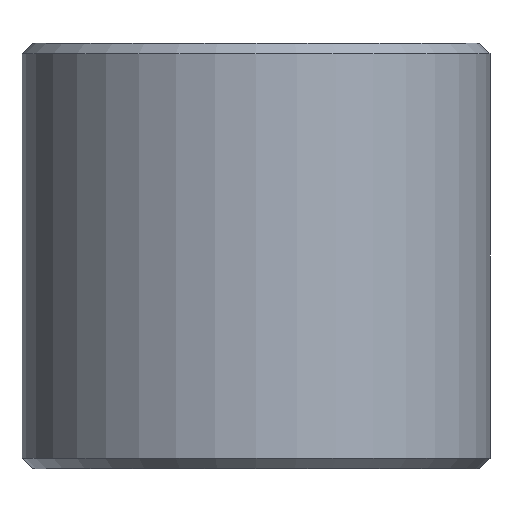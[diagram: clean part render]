
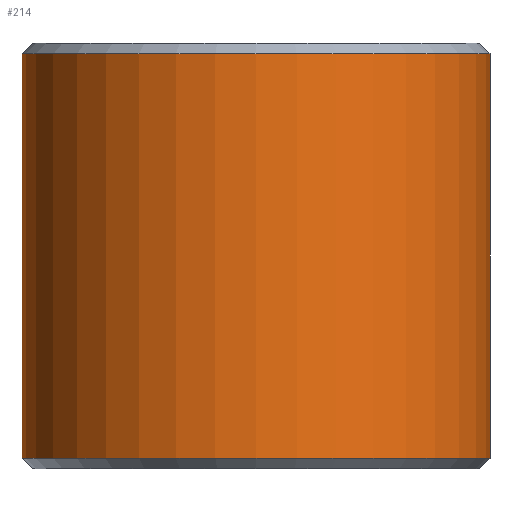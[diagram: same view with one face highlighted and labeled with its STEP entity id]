
A CAD part, front view. The second image highlights one B-rep face of the part: STEP entity #214.
In plain terms, the highlighted cylindrical face has radius 11 mm (diameter 22 mm), a partial arc.
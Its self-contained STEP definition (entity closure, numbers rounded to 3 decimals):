
#9 = LINE ( 'NONE', #278, #441 ) ;
#12 = AXIS2_PLACEMENT_3D ( 'NONE', #204, #348, #306 ) ;
#13 = ORIENTED_EDGE ( 'NONE', *, *, #323, .T. ) ;
#30 = DIRECTION ( 'NONE',  ( 0., 0., -1. ) ) ;
#37 = ORIENTED_EDGE ( 'NONE', *, *, #277, .F. ) ;
#47 = VERTEX_POINT ( 'NONE', #253 ) ;
#66 = DIRECTION ( 'NONE',  ( 0., 0., -1. ) ) ;
#92 = DIRECTION ( 'NONE',  ( 0., 0., -1. ) ) ;
#121 = CIRCLE ( 'NONE', #12, 11. ) ;
#123 = ORIENTED_EDGE ( 'NONE', *, *, #266, .T. ) ;
#138 = CARTESIAN_POINT ( 'NONE',  ( 0., 0., -9.5 ) ) ;
#176 = AXIS2_PLACEMENT_3D ( 'NONE', #138, #384, #419 ) ;
#201 = VECTOR ( 'NONE', #92, 1000. ) ;
#204 = CARTESIAN_POINT ( 'NONE',  ( 0., 0., 9.5 ) ) ;
#210 = VERTEX_POINT ( 'NONE', #299 ) ;
#214 = ADVANCED_FACE ( 'NONE', ( #300 ), #414, .T. ) ;
#232 = CARTESIAN_POINT ( 'NONE',  ( -11., 0., 9.5 ) ) ;
#233 = CIRCLE ( 'NONE', #176, 11. ) ;
#245 = VERTEX_POINT ( 'NONE', #232 ) ;
#253 = CARTESIAN_POINT ( 'NONE',  ( -11., 0., -9.5 ) ) ;
#262 = LINE ( 'NONE', #409, #201 ) ;
#266 = EDGE_CURVE ( 'NONE', #245, #47, #262, .T. ) ;
#269 = EDGE_CURVE ( 'NONE', #352, #245, #121, .T. ) ;
#277 = EDGE_CURVE ( 'NONE', #352, #210, #9, .T. ) ;
#278 = CARTESIAN_POINT ( 'NONE',  ( 11., 0., 10. ) ) ;
#299 = CARTESIAN_POINT ( 'NONE',  ( 11., 0., -9.5 ) ) ;
#300 = FACE_OUTER_BOUND ( 'NONE', #350, .T. ) ;
#306 = DIRECTION ( 'NONE',  ( 1., 0., 0. ) ) ;
#309 = AXIS2_PLACEMENT_3D ( 'NONE', #411, #30, #445 ) ;
#322 = CARTESIAN_POINT ( 'NONE',  ( 11., 0., 9.5 ) ) ;
#323 = EDGE_CURVE ( 'NONE', #47, #210, #233, .T. ) ;
#348 = DIRECTION ( 'NONE',  ( 0., 0., -1. ) ) ;
#350 = EDGE_LOOP ( 'NONE', ( #37, #365, #123, #13 ) ) ;
#352 = VERTEX_POINT ( 'NONE', #322 ) ;
#365 = ORIENTED_EDGE ( 'NONE', *, *, #269, .T. ) ;
#384 = DIRECTION ( 'NONE',  ( 0., 0., 1. ) ) ;
#409 = CARTESIAN_POINT ( 'NONE',  ( -11., 0., 10. ) ) ;
#411 = CARTESIAN_POINT ( 'NONE',  ( 0., 0., 10. ) ) ;
#414 = CYLINDRICAL_SURFACE ( 'NONE', #309, 11. ) ;
#419 = DIRECTION ( 'NONE',  ( 1., 0., 0. ) ) ;
#441 = VECTOR ( 'NONE', #66, 1000. ) ;
#445 = DIRECTION ( 'NONE',  ( -1., 0., 0. ) ) ;
